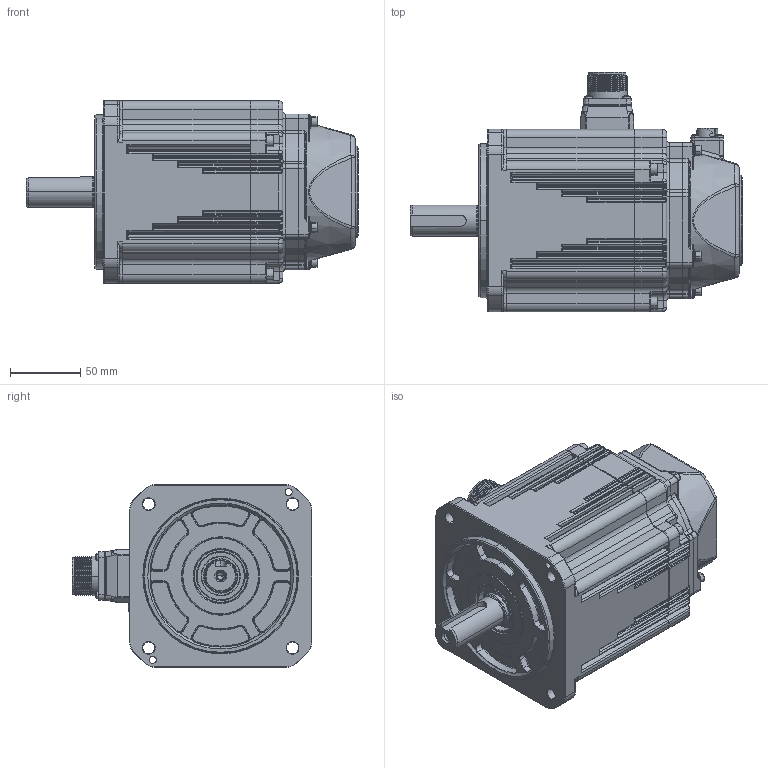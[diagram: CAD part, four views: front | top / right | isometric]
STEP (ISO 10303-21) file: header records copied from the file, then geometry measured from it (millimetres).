
FILE_DESCRIPTION (( 'STEP AP203' ), '1' );
FILE_NAME ('130儂釱-ACM2M-1300W价陬.STEP', '2023-09-20T07:41:59', ( 'Microsoft' ), ( 'Microsoft' ), 'SwSTEP 2.0', 'SolidWorks 2021', '' );
FILE_SCHEMA (( 'CONFIG_CONTROL_DESIGN' ));
Length unit declared in the file: millimetre
Products named in the file (13): 蚐猾; ﾂﾝｶ､｣ｻM3｡ﾁ10｣ｬﾊｮﾗﾖｲﾛﾅﾌﾍｷ_M3｡ﾁ10; 螺钉 M3×25 十字盘头_M3×10; CMVl-10弯型系列插头连接器;SC-CMVl-APlOCB；电泳黑色；三竹; 130航插安装座-渲染用; 130价陬綴傷裔_傖こ; 130前端盖0.85、1.3、1.8-渲染用_成品-1.3; 蹟隊 M4℅14 戚芛; 螺钉 M5×20 杯头_M5×20; 130儂釱-ACM2M-1300W价陬; cms3102a18-a6pc-z--压接式-渲染用_6芯; 130蛌粣09_LX晤鎢ん; 130编码器盖2M 高44.9 尼龙+玻纤 ZX 渲染用
Assembly tree (27 placements, depth 2):
  130儂釱-ACM2M-1300W价陬
    130前端盖0.85、1.3、1.8-渲染用_成品-1.3
    130价陬綴傷裔_傖こ
    130蛌粣09_LX晤鎢ん
    130航插安装座-渲染用
    蚐猾
    cms3102a18-a6pc-z--压接式-渲染用_6芯
    CMVl-10弯型系列插头连接器;SC-CMVl-APlOCB；电泳黑色；三竹
    130编码器盖2M 高44.9 尼龙+玻纤 ZX 渲染用
    螺钉 M5×20 杯头_M5×20  x4
    蹟隊 M4℅14 戚芛  x7
    螺钉 M3×25 十字盘头_M3×10  x4
    ﾂﾝｶ､｣ｻM3｡ﾁ10｣ｬﾊｮﾗﾖｲﾛﾅﾌﾍｷ_M3｡ﾁ10  x4
Bounding box: 236.7 x 170.9 x 130 mm (x, y, z)
Volume: 2516608.7 mm3; surface area: 237850.8 mm2
Topology: 42 solids, 50 shells, 4096 faces, 10149 edges, 6130 vertices
Faces by surface type: plane 1455, cylinder 1293, torus 619, bspline 334, cone 313, sphere 82
Entity records: 142380 total; most frequent: CARTESIAN_POINT 57182, ORIENTED_EDGE 17650, DIRECTION 17526, EDGE_CURVE 8825, AXIS2_PLACEMENT_3D 6673, VERTEX_POINT 5426, LINE 4180, VECTOR 4180
